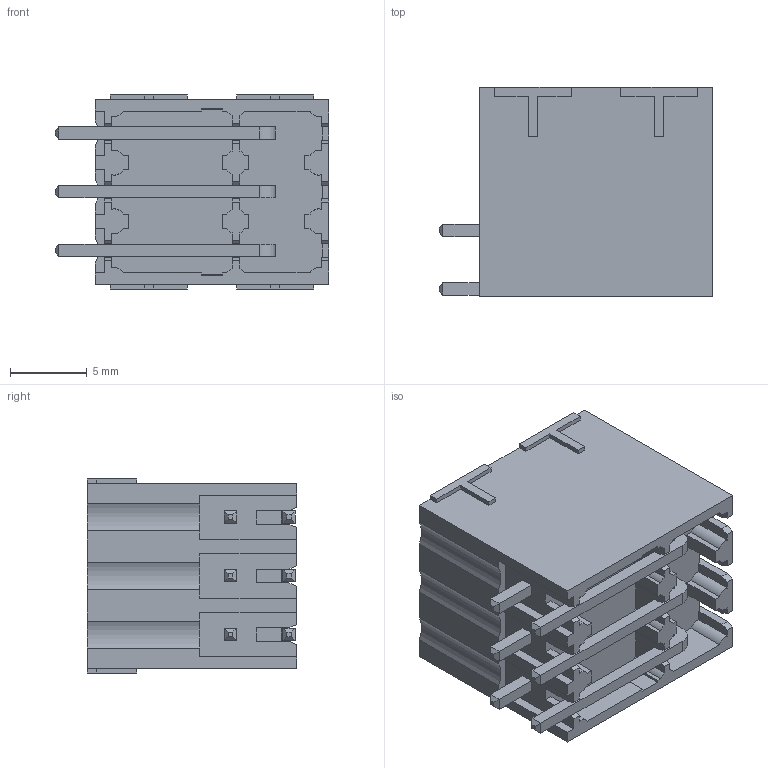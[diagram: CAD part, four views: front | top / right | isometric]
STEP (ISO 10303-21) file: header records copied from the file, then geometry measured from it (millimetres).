
FILE_DESCRIPTION((''),'2;1');
FILE_NAME('333','2019-04-12T',('zhenbing.lai'),(''),'CREO PARAMETRIC BY PTC INC, 2016260','CREO PARAMETRIC BY PTC INC, 2016260','');
FILE_SCHEMA(('CONFIG_CONTROL_DESIGN'));
Length unit declared in the file: millimetre
Products named in the file (1): 333
Bounding box: 17.8 x 13.61 x 12.62 mm (x, y, z)
Volume: 1535.3 mm3; surface area: 2493.3 mm2
Topology: 1 solids, 1 shells, 591 faces, 1623 edges, 1055 vertices
Faces by surface type: plane 543, cylinder 42, cone 6
Entity records: 18434 total; most frequent: CARTESIAN_POINT 3323, ORIENTED_EDGE 3246, DIRECTION 2910, EDGE_CURVE 1623, VECTOR 1494, LINE 1494, VERTEX_POINT 1055, AXIS2_PLACEMENT_3D 708
